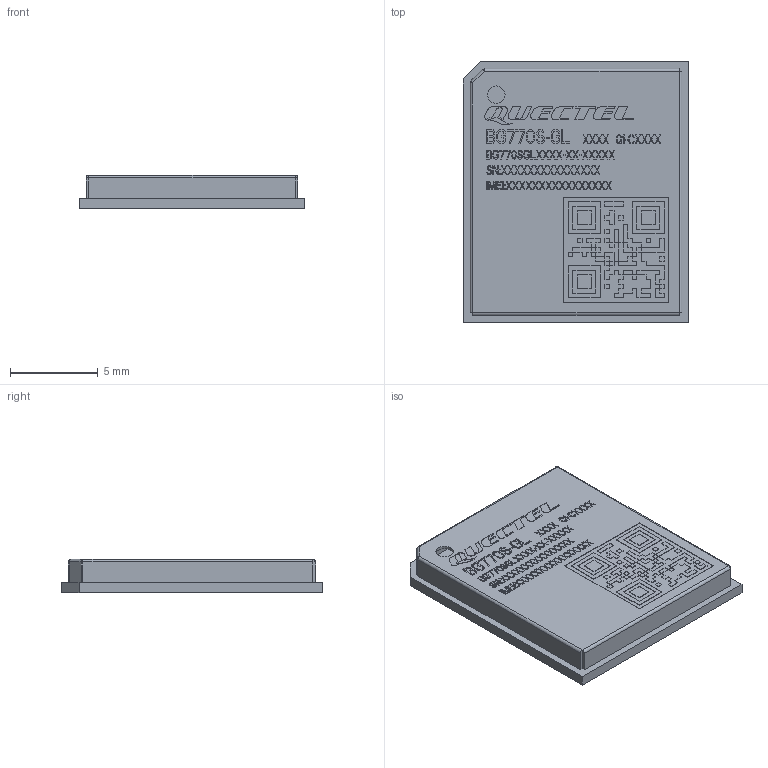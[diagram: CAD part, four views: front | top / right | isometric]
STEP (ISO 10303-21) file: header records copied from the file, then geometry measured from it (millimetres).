
FILE_DESCRIPTION((''),'2;1');
FILE_NAME('BG770S-GL_PCB_ASM','2025-03-17T10:35:38',('admin'),(''),'CREO PARAMETRIC BY PTC INC, 2024063','CREO PARAMETRIC BY PTC INC, 2024063','');
FILE_SCHEMA(('CONFIG_CONTROL_DESIGN','SHAPE_APPEARANCE_LAYERS_GROUPS'));
Products named in the file (3): BG770S-GL_PCB; BG77_COVER; BG770S-GL_PCB_ASM
Assembly tree (2 placements, depth 2):
  BG770S-GL_PCB_ASM
    BG770S-GL_PCB
    BG77_COVER
Bounding box: 12.9 x 14.9 x 1.9 mm (x, y, z)
Volume: 147.4 mm3; surface area: 891.5 mm2
Topology: 2 solids, 2 shells, 2129 faces, 5621 edges, 3708 vertices
Faces by surface type: plane 1834, cylinder 195, extrusion 100
Entity records: 84835 total; most frequent: CARTESIAN_POINT 12393, ORIENTED_EDGE 11242, DIRECTION 9979, PRESENTATION_STYLE_ASSIGNMENT 5822, STYLED_ITEM 5623, CURVE_STYLE 5621, EDGE_CURVE 5621, VECTOR 5131
